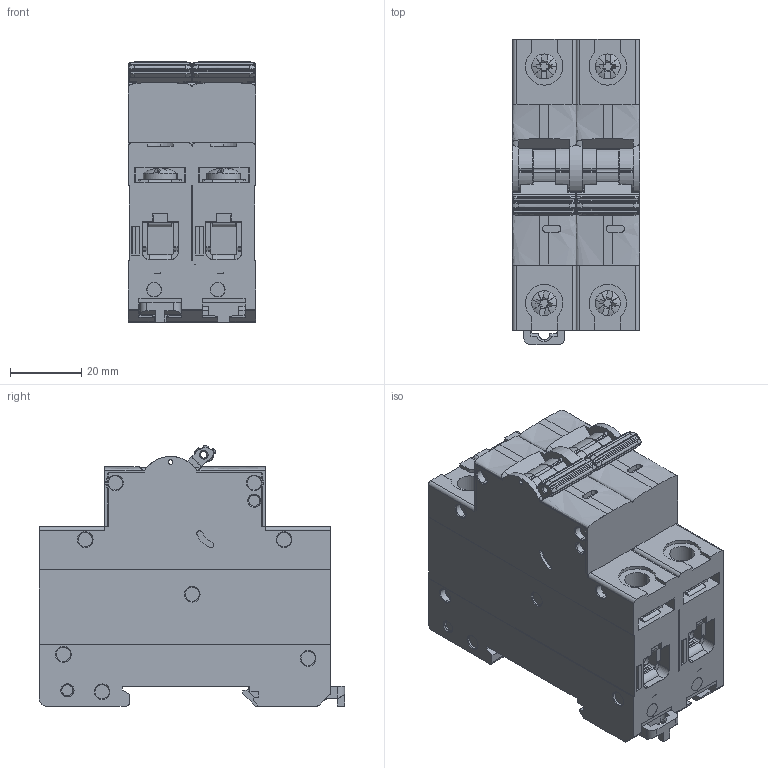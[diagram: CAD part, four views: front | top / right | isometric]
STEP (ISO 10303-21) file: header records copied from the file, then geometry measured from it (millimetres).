
FILE_DESCRIPTION (( 'STEP AP214' ), '1' );
FILE_NAME ('2P.STEP', '2026-07-03T08:23:23', ( '' ), ( '' ), 'SwSTEP 2.0', 'SolidWorks 2022', '' );
FILE_SCHEMA (( 'AUTOMOTIVE_DESIGN' ));
Length unit declared in the file: millimetre
Products named in the file (1): 2P
Bounding box: 35.6 x 85.45 x 72.89 mm (x, y, z)
Volume: 156294.8 mm3; surface area: 31795 mm2
Topology: 1 solids, 76 shells, 2615 faces, 7139 edges, 4596 vertices
Faces by surface type: plane 1794, cylinder 498, bspline 122, cone 121, torus 70, sphere 10
Entity records: 117250 total; most frequent: CARTESIAN_POINT 23829, ORIENTED_EDGE 14230, DIRECTION 12903, EDGE_CURVE 7115, VECTOR 5077, LINE 5077, VERTEX_POINT 4596, AXIS2_PLACEMENT_3D 3913
